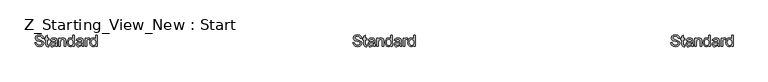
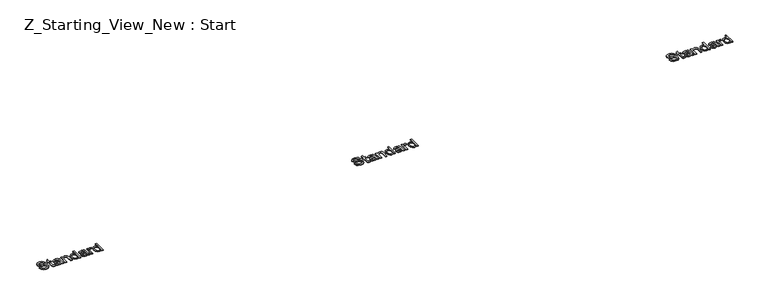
"""IFC4 building model written with IfcOpenShell, lengths in millimetres: pipe fitting geometry, Z_Starting_View_New : Start."""

from ifc_helpers import new_model, si_unit, origin, origin_with_axes, place, context, project, spatial, polyline, outline, extrude, source, transform, mapped, element, save


def z_starting_view_new_start_2e19dfc8(model_context):
    return source(origin(), model_context, "Body", "SweptSolid", [
        extrude(outline(polyline([(25158.6619591, 7155.3175869), (25171.2189979, 7155.3175869), (25175.2656999, 7142.7482854), (25185.1494628, 7134.8020343), (25200.2080991, 7131.7731392), (25213.3292236, 7134.0662703), (25221.8027722, 7140.3693151), (25224.5864127, 7148.7938128), (25222.501748, 7156.6296993), (25213.9668857, 7162.3318703), (25195.6831506, 7167.1265989), (25176.0014638, 7173.3192792), (25165.3206232, 7182.6634819), (25161.8012188, 7195.1469442), (25166.1544891, 7209.359452), (25178.8709434, 7219.3903677), (25197.4857724, 7222.8116703), (25217.3514001, 7219.2309522), (25230.5951519, 7208.7095271), (25235.5738216, 7192.9887032), (25223.0167828, 7192.9887032), (25220.711389, 7200.4812332), (25215.9043976, 7205.8890985), (25197.9762817, 7210.2546315), (25179.9991149, 7205.9381494), (25174.3582576, 7195.5148262), (25178.3559086, 7186.8082857), (25198.8591985, 7179.7940023), (25221.079271, 7173.4909574), (25233.2316396, 7163.3128889), (25237.1434514, 7149.1126439), (25232.6430284, 7134.0907958), (25219.6935821, 7123.1279123), (25200.6986085, 7119.2161004), (25178.2700695, 7123.4344806), (25164.0820872, 7136.1386722), (25158.6619591, 7155.3175869)])), origin_with_axes(), (0.0, 0.0, 1.0), 5.0),
        extrude(outline(polyline([(25281.0930871, 7131.2581044), (25282.662717, 7120.4178483), (25273.2694634, 7119.2161004), (25262.7480383, 7121.3007651), (25257.4995885, 7126.7699441), (25255.9790096, 7141.01924), (25255.9790096, 7182.0012943), (25246.5612305, 7182.0012943), (25246.5612305, 7194.558333), (25255.9790096, 7194.558333), (25255.9790096, 7212.4864489), (25268.5360484, 7219.8686143), (25268.5360484, 7194.558333), (25281.0930871, 7194.558333), (25281.0930871, 7182.0012943), (25268.5360484, 7182.0012943), (25268.5360484, 7141.387122), (25269.198236, 7134.9123989), (25271.3442143, 7132.6192678), (25275.6239081, 7131.7731392), (25281.0930871, 7131.2581044)])), origin_with_axes(), (0.0, 0.0, 1.0), 5.0),
        extrude(outline(polyline([(25340.7390213, 7130.2035093), (25328.5621272, 7121.6931725), (25315.109909, 7119.2161004), (25304.616075, 7120.7060225), (25296.8752247, 7125.1757887), (25292.1019558, 7131.9632116), (25290.5108662, 7140.4061033), (25292.9143619, 7150.3389172), (25299.2296695, 7157.5494043), (25308.0220492, 7161.6696827), (25318.8868308, 7163.5581436), (25340.6654449, 7167.8746256), (25340.7390213, 7170.6705288), (25337.2809305, 7179.9411551), (25323.3995166, 7183.5709241), (25310.695325, 7181.1551657), (25304.6375348, 7172.5835152), (25292.0804961, 7174.153145), (25297.5128868, 7186.4158782), (25308.4512448, 7193.6018398), (25325.0181974, 7196.1279629), (25340.2362492, 7193.8961454), (25348.8324252, 7188.2920764), (25352.6829234, 7179.7694768), (25353.2960601, 7168.7820679), (25353.2960601, 7153.1593458), (25353.9337222, 7131.3439435), (25356.4353197, 7120.7857303), (25343.878281, 7120.7857303), (25340.7390213, 7130.2035093)]), holes=[polyline([(25340.7390213, 7155.3175869), (25320.4809861, 7151.4670887), (25309.6775182, 7149.431475), (25304.7846876, 7146.120537), (25303.067905, 7141.2890201), (25306.8080386, 7134.495466), (25317.7831848, 7131.7731392), (25330.4873764, 7134.7775088), (25338.6788821, 7142.0493096), (25340.6654449, 7151.7613943), (25340.7390213, 7155.3175869)])]), origin_with_axes(), (0.0, 0.0, 1.0), 5.0),
        extrude(outline(polyline([(25370.5619884, 7120.7857303), (25370.5619884, 7194.558333), (25383.1190271, 7194.558333), (25383.1190271, 7184.2576372), (25392.7207472, 7193.1603815), (25405.829609, 7196.1279629), (25417.6876719, 7193.7367299), (25425.7810758, 7187.4582105), (25429.5457349, 7178.2243724), (25430.2079225, 7166.0842666), (25430.2079225, 7120.7857303), (25417.6508837, 7120.7857303), (25417.6508837, 7164.3920094), (25416.2038812, 7175.5020457), (25411.0903215, 7181.3758949), (25402.4696201, 7183.5709241), (25388.8457235, 7178.6413054), (25384.5507012, 7171.4982633), (25383.1190271, 7159.9283746), (25383.1190271, 7120.7857303), (25370.5619884, 7120.7857303)])), origin_with_axes(), (0.0, 0.0, 1.0), 5.0),
        extrude(outline(polyline([(25492.9931164, 7120.7857303), (25492.9931164, 7132.6315305), (25484.6851146, 7122.5699579), (25473.201065, 7119.2161004), (25457.6519193, 7124.0721428), (25446.6645104, 7137.6224629), (25442.7649613, 7157.5984553), (25446.3579421, 7177.5867103), (25457.1246218, 7191.3454969), (25473.1520141, 7196.1279629), (25484.7280342, 7192.7066603), (25492.9931164, 7183.8161788), (25492.9931164, 7221.2420404), (25505.5501551, 7221.2420404), (25505.5501551, 7120.7857303), (25492.9931164, 7120.7857303)]), holes=[polyline([(25455.322, 7157.6475062), (25456.7383457, 7146.2891496), (25460.9873828, 7138.2110741), (25467.1616689, 7133.3826229), (25474.3537619, 7131.7731392), (25481.5427893, 7133.3090465), (25487.5607256, 7137.9167685), (25491.6350187, 7145.6821443), (25492.9931164, 7156.691013), (25491.6104932, 7168.7268856), (25487.4626237, 7177.0716755), (25481.2914032, 7181.946112), (25473.8387271, 7183.5709241), (25466.5730577, 7182.0104913), (25460.6195008, 7177.3291929), (25456.6463752, 7169.2879056), (25455.322, 7157.6475062)])]), origin_with_axes(), (0.0, 0.0, 1.0), 5.0),
        extrude(outline(polyline([(25571.4746087, 7130.2035093), (25559.2977146, 7121.6931725), (25545.8454963, 7119.2161004), (25535.3516624, 7120.7060225), (25527.6108121, 7125.1757887), (25522.8375432, 7131.9632116), (25521.2464536, 7140.4061033), (25523.6499493, 7150.3389172), (25529.9652569, 7157.5494043), (25538.7576366, 7161.6696827), (25549.6224181, 7163.5581436), (25571.4010323, 7167.8746256), (25571.4746087, 7170.6705288), (25568.0165179, 7179.9411551), (25554.135104, 7183.5709241), (25541.4309124, 7181.1551657), (25535.3731222, 7172.5835152), (25522.8160834, 7174.153145), (25528.2484742, 7186.4158782), (25539.1868322, 7193.6018398), (25555.7537847, 7196.1279629), (25570.9718366, 7193.8961454), (25579.5680126, 7188.2920764), (25583.4185108, 7179.7694768), (25584.0316474, 7168.7820679), (25584.0316474, 7153.1593458), (25584.6693096, 7131.3439435), (25587.1709071, 7120.7857303), (25574.6138683, 7120.7857303), (25571.4746087, 7130.2035093)]), holes=[polyline([(25571.4746087, 7155.3175869), (25551.2165735, 7151.4670887), (25540.4131055, 7149.431475), (25535.520275, 7146.120537), (25533.8034924, 7141.2890201), (25537.543626, 7134.495466), (25548.5187722, 7131.7731392), (25561.2229637, 7134.7775088), (25569.4144695, 7142.0493096), (25571.4010323, 7151.7613943), (25571.4746087, 7155.3175869)])]), origin_with_axes(), (0.0, 0.0, 1.0), 5.0),
        extrude(outline(polyline([(25601.2975757, 7120.7857303), (25601.2975757, 7194.558333), (25612.2849847, 7194.558333), (25612.2849847, 7183.6445005), (25620.084083, 7193.6999417), (25627.9322322, 7196.1279629), (25640.5383219, 7192.2529392), (25636.3444671, 7180.9957501), (25627.5152993, 7183.5709241), (25620.4151767, 7181.093852), (25615.8902282, 7174.2267214), (25613.8546145, 7159.5604926), (25613.8546145, 7120.7857303), (25601.2975757, 7120.7857303)])), origin_with_axes(), (0.0, 0.0, 1.0), 5.0),
        extrude(outline(polyline([(25693.9057367, 7120.7857303), (25693.9057367, 7132.6315305), (25685.5977349, 7122.5699579), (25674.1136853, 7119.2161004), (25658.5645396, 7124.0721428), (25647.5771307, 7137.6224629), (25643.6775816, 7157.5984553), (25647.2705624, 7177.5867103), (25658.0372421, 7191.3454969), (25674.0646344, 7196.1279629), (25685.6406545, 7192.7066603), (25693.9057367, 7183.8161788), (25693.9057367, 7221.2420404), (25706.4627754, 7221.2420404), (25706.4627754, 7120.7857303), (25693.9057367, 7120.7857303)]), holes=[polyline([(25656.2346203, 7157.6475062), (25657.650966, 7146.2891496), (25661.9000031, 7138.2110741), (25668.0742892, 7133.3826229), (25675.2663822, 7131.7731392), (25682.4554096, 7133.3090465), (25688.4733459, 7137.9167685), (25692.547639, 7145.6821443), (25693.9057367, 7156.691013), (25692.5231135, 7168.7268856), (25688.375244, 7177.0716755), (25682.2040235, 7181.946112), (25674.7513474, 7183.5709241), (25667.485678, 7182.0104913), (25661.5321211, 7177.3291929), (25657.5589955, 7169.2879056), (25656.2346203, 7157.6475062)])]), origin_with_axes(), (0.0, 0.0, 1.0), 5.0),
        extrude(outline(polyline([(27958.6619591, 7155.3175869), (27971.2189979, 7155.3175869), (27975.2656999, 7142.7482854), (27985.1494628, 7134.8020343), (28000.2080991, 7131.7731392), (28013.3292236, 7134.0662703), (28021.8027722, 7140.3693151), (28024.5864127, 7148.7938128), (28022.501748, 7156.6296993), (28013.9668857, 7162.3318703), (27995.6831506, 7167.1265989), (27976.0014638, 7173.3192792), (27965.3206232, 7182.6634819), (27961.8012188, 7195.1469442), (27966.1544891, 7209.359452), (27978.8709434, 7219.3903677), (27997.4857724, 7222.8116703), (28017.3514001, 7219.2309522), (28030.5951519, 7208.7095271), (28035.5738216, 7192.9887032), (28023.0167828, 7192.9887032), (28020.711389, 7200.4812332), (28015.9043976, 7205.8890985), (27997.9762817, 7210.2546315), (27979.9991149, 7205.9381494), (27974.3582576, 7195.5148262), (27978.3559086, 7186.8082857), (27998.8591985, 7179.7940023), (28021.079271, 7173.4909574), (28033.2316396, 7163.3128889), (28037.1434514, 7149.1126439), (28032.6430284, 7134.0907958), (28019.6935821, 7123.1279123), (28000.6986085, 7119.2161004), (27978.2700695, 7123.4344806), (27964.0820872, 7136.1386722), (27958.6619591, 7155.3175869)])), origin_with_axes(), (0.0, 0.0, 1.0), 5.0),
        extrude(outline(polyline([(28081.0930871, 7131.2581044), (28082.662717, 7120.4178483), (28073.2694634, 7119.2161004), (28062.7480383, 7121.3007651), (28057.4995885, 7126.7699441), (28055.9790096, 7141.01924), (28055.9790096, 7182.0012943), (28046.5612305, 7182.0012943), (28046.5612305, 7194.558333), (28055.9790096, 7194.558333), (28055.9790096, 7212.4864489), (28068.5360484, 7219.8686143), (28068.5360484, 7194.558333), (28081.0930871, 7194.558333), (28081.0930871, 7182.0012943), (28068.5360484, 7182.0012943), (28068.5360484, 7141.387122), (28069.198236, 7134.9123989), (28071.3442143, 7132.6192678), (28075.6239081, 7131.7731392), (28081.0930871, 7131.2581044)])), origin_with_axes(), (0.0, 0.0, 1.0), 5.0),
        extrude(outline(polyline([(28140.7390213, 7130.2035093), (28128.5621272, 7121.6931725), (28115.109909, 7119.2161004), (28104.616075, 7120.7060225), (28096.8752247, 7125.1757887), (28092.1019558, 7131.9632116), (28090.5108662, 7140.4061033), (28092.9143619, 7150.3389172), (28099.2296695, 7157.5494043), (28108.0220492, 7161.6696827), (28118.8868308, 7163.5581436), (28140.6654449, 7167.8746256), (28140.7390213, 7170.6705288), (28137.2809305, 7179.9411551), (28123.3995166, 7183.5709241), (28110.695325, 7181.1551657), (28104.6375348, 7172.5835152), (28092.0804961, 7174.153145), (28097.5128868, 7186.4158782), (28108.4512448, 7193.6018398), (28125.0181974, 7196.1279629), (28140.2362492, 7193.8961454), (28148.8324252, 7188.2920764), (28152.6829234, 7179.7694768), (28153.2960601, 7168.7820679), (28153.2960601, 7153.1593458), (28153.9337222, 7131.3439435), (28156.4353197, 7120.7857303), (28143.878281, 7120.7857303), (28140.7390213, 7130.2035093)]), holes=[polyline([(28140.7390213, 7155.3175869), (28120.4809861, 7151.4670887), (28109.6775182, 7149.431475), (28104.7846876, 7146.120537), (28103.067905, 7141.2890201), (28106.8080386, 7134.495466), (28117.7831848, 7131.7731392), (28130.4873764, 7134.7775088), (28138.6788821, 7142.0493096), (28140.6654449, 7151.7613943), (28140.7390213, 7155.3175869)])]), origin_with_axes(), (0.0, 0.0, 1.0), 5.0),
        extrude(outline(polyline([(28170.5619884, 7120.7857303), (28170.5619884, 7194.558333), (28183.1190271, 7194.558333), (28183.1190271, 7184.2576372), (28192.7207472, 7193.1603815), (28205.829609, 7196.1279629), (28217.6876719, 7193.7367299), (28225.7810758, 7187.4582105), (28229.5457349, 7178.2243724), (28230.2079225, 7166.0842666), (28230.2079225, 7120.7857303), (28217.6508837, 7120.7857303), (28217.6508837, 7164.3920094), (28216.2038812, 7175.5020457), (28211.0903215, 7181.3758949), (28202.4696201, 7183.5709241), (28188.8457235, 7178.6413054), (28184.5507012, 7171.4982633), (28183.1190271, 7159.9283746), (28183.1190271, 7120.7857303), (28170.5619884, 7120.7857303)])), origin_with_axes(), (0.0, 0.0, 1.0), 5.0),
        extrude(outline(polyline([(28292.9931164, 7120.7857303), (28292.9931164, 7132.6315305), (28284.6851146, 7122.5699579), (28273.201065, 7119.2161004), (28257.6519193, 7124.0721428), (28246.6645104, 7137.6224629), (28242.7649613, 7157.5984552), (28246.3579421, 7177.5867103), (28257.1246218, 7191.3454969), (28273.1520141, 7196.1279629), (28284.7280342, 7192.7066603), (28292.9931164, 7183.8161788), (28292.9931164, 7221.2420404), (28305.5501551, 7221.2420404), (28305.5501551, 7120.7857303), (28292.9931164, 7120.7857303)]), holes=[polyline([(28255.322, 7157.6475062), (28256.7383457, 7146.2891496), (28260.9873828, 7138.2110741), (28267.1616689, 7133.3826229), (28274.3537619, 7131.7731392), (28281.5427893, 7133.3090465), (28287.5607256, 7137.9167685), (28291.6350187, 7145.6821443), (28292.9931164, 7156.691013), (28291.6104932, 7168.7268856), (28287.4626237, 7177.0716755), (28281.2914032, 7181.946112), (28273.8387271, 7183.5709241), (28266.5730577, 7182.0104913), (28260.6195008, 7177.3291929), (28256.6463752, 7169.2879056), (28255.322, 7157.6475062)])]), origin_with_axes(), (0.0, 0.0, 1.0), 5.0),
        extrude(outline(polyline([(28371.4746087, 7130.2035093), (28359.2977146, 7121.6931725), (28345.8454963, 7119.2161004), (28335.3516624, 7120.7060225), (28327.6108121, 7125.1757887), (28322.8375432, 7131.9632116), (28321.2464536, 7140.4061033), (28323.6499493, 7150.3389172), (28329.9652569, 7157.5494043), (28338.7576366, 7161.6696827), (28349.6224181, 7163.5581436), (28371.4010323, 7167.8746256), (28371.4746087, 7170.6705288), (28368.0165179, 7179.9411551), (28354.135104, 7183.5709241), (28341.4309124, 7181.1551657), (28335.3731222, 7172.5835152), (28322.8160834, 7174.153145), (28328.2484742, 7186.4158782), (28339.1868322, 7193.6018398), (28355.7537847, 7196.1279629), (28370.9718366, 7193.8961454), (28379.5680126, 7188.2920764), (28383.4185108, 7179.7694768), (28384.0316474, 7168.7820679), (28384.0316474, 7153.1593458), (28384.6693096, 7131.3439435), (28387.1709071, 7120.7857303), (28374.6138683, 7120.7857303), (28371.4746087, 7130.2035093)]), holes=[polyline([(28371.4746087, 7155.3175869), (28351.2165735, 7151.4670887), (28340.4131055, 7149.431475), (28335.520275, 7146.120537), (28333.8034924, 7141.2890201), (28337.543626, 7134.495466), (28348.5187722, 7131.7731392), (28361.2229637, 7134.7775088), (28369.4144695, 7142.0493096), (28371.4010323, 7151.7613943), (28371.4746087, 7155.3175869)])]), origin_with_axes(), (0.0, 0.0, 1.0), 5.0),
        extrude(outline(polyline([(28401.2975757, 7120.7857303), (28401.2975757, 7194.558333), (28412.2849847, 7194.558333), (28412.2849847, 7183.6445005), (28420.084083, 7193.6999417), (28427.9322322, 7196.1279629), (28440.5383219, 7192.2529392), (28436.3444671, 7180.9957501), (28427.5152993, 7183.5709241), (28420.4151767, 7181.093852), (28415.8902282, 7174.2267214), (28413.8546145, 7159.5604926), (28413.8546145, 7120.7857303), (28401.2975757, 7120.7857303)])), origin_with_axes(), (0.0, 0.0, 1.0), 5.0),
        extrude(outline(polyline([(28493.9057367, 7120.7857303), (28493.9057367, 7132.6315305), (28485.5977349, 7122.5699579), (28474.1136853, 7119.2161004), (28458.5645396, 7124.0721428), (28447.5771307, 7137.6224629), (28443.6775816, 7157.5984552), (28447.2705624, 7177.5867103), (28458.0372421, 7191.3454969), (28474.0646344, 7196.1279629), (28485.6406545, 7192.7066603), (28493.9057367, 7183.8161788), (28493.9057367, 7221.2420404), (28506.4627754, 7221.2420404), (28506.4627754, 7120.7857303), (28493.9057367, 7120.7857303)]), holes=[polyline([(28456.2346203, 7157.6475062), (28457.650966, 7146.2891496), (28461.9000031, 7138.2110741), (28468.0742892, 7133.3826229), (28475.2663822, 7131.7731392), (28482.4554096, 7133.3090465), (28488.4733459, 7137.9167685), (28492.547639, 7145.6821443), (28493.9057367, 7156.691013), (28492.5231135, 7168.7268856), (28488.375244, 7177.0716755), (28482.2040235, 7181.946112), (28474.7513474, 7183.5709241), (28467.485678, 7182.0104913), (28461.5321211, 7177.3291929), (28457.5589955, 7169.2879056), (28456.2346203, 7157.6475062)])]), origin_with_axes(), (0.0, 0.0, 1.0), 5.0),
        extrude(outline(polyline([(22570.5619884, 7120.7857303), (22570.5619884, 7194.558333), (22583.1190271, 7194.558333), (22583.1190271, 7184.2576372), (22592.7207472, 7193.1603815), (22605.829609, 7196.1279629), (22617.6876719, 7193.7367299), (22625.7810758, 7187.4582105), (22629.5457349, 7178.2243724), (22630.2079225, 7166.0842666), (22630.2079225, 7120.7857303), (22617.6508837, 7120.7857303), (22617.6508837, 7164.3920094), (22616.2038812, 7175.5020457), (22611.0903215, 7181.3758949), (22602.4696201, 7183.5709241), (22588.8457235, 7178.6413054), (22584.5507012, 7171.4982633), (22583.1190271, 7159.9283746), (22583.1190271, 7120.7857303), (22570.5619884, 7120.7857303)])), origin_with_axes(), (0.0, 0.0, 1.0), 5.0),
        extrude(outline(polyline([(22358.6619591, 7155.3175869), (22371.2189979, 7155.3175869), (22375.2656999, 7142.7482854), (22385.1494628, 7134.8020343), (22400.2080991, 7131.7731392), (22413.3292236, 7134.0662703), (22421.8027722, 7140.3693151), (22424.5864127, 7148.7938128), (22422.501748, 7156.6296993), (22413.9668857, 7162.3318703), (22395.6831506, 7167.1265989), (22376.0014638, 7173.3192792), (22365.3206232, 7182.6634819), (22361.8012188, 7195.1469442), (22366.1544891, 7209.359452), (22378.8709434, 7219.3903677), (22397.4857724, 7222.8116703), (22417.3514001, 7219.2309522), (22430.5951519, 7208.7095271), (22435.5738216, 7192.9887032), (22423.0167828, 7192.9887032), (22420.711389, 7200.4812332), (22415.9043976, 7205.8890985), (22397.9762817, 7210.2546315), (22379.9991149, 7205.9381494), (22374.3582576, 7195.5148262), (22378.3559086, 7186.8082857), (22398.8591985, 7179.7940023), (22421.079271, 7173.4909574), (22433.2316396, 7163.3128889), (22437.1434514, 7149.1126439), (22432.6430284, 7134.0907958), (22419.6935821, 7123.1279123), (22400.6986085, 7119.2161004), (22378.2700695, 7123.4344806), (22364.0820872, 7136.1386722), (22358.6619591, 7155.3175869)])), origin_with_axes(), (0.0, 0.0, 1.0), 5.0),
        extrude(outline(polyline([(22481.0930871, 7131.2581044), (22482.662717, 7120.4178483), (22473.2694634, 7119.2161004), (22462.7480383, 7121.3007651), (22457.4995885, 7126.7699441), (22455.9790096, 7141.01924), (22455.9790096, 7182.0012943), (22446.5612305, 7182.0012943), (22446.5612305, 7194.558333), (22455.9790096, 7194.558333), (22455.9790096, 7212.4864489), (22468.5360484, 7219.8686143), (22468.5360484, 7194.558333), (22481.0930871, 7194.558333), (22481.0930871, 7182.0012943), (22468.5360484, 7182.0012943), (22468.5360484, 7141.387122), (22469.198236, 7134.9123989), (22471.3442143, 7132.6192678), (22475.6239081, 7131.7731392), (22481.0930871, 7131.2581044)])), origin_with_axes(), (0.0, 0.0, 1.0), 5.0),
        extrude(outline(polyline([(22540.7390213, 7130.2035093), (22528.5621272, 7121.6931725), (22515.109909, 7119.2161004), (22504.616075, 7120.7060225), (22496.8752247, 7125.1757887), (22492.1019558, 7131.9632116), (22490.5108662, 7140.4061033), (22492.9143619, 7150.3389172), (22499.2296695, 7157.5494043), (22508.0220492, 7161.6696827), (22518.8868308, 7163.5581436), (22540.6654449, 7167.8746256), (22540.7390213, 7170.6705288), (22537.2809305, 7179.9411551), (22523.3995166, 7183.5709241), (22510.695325, 7181.1551657), (22504.6375348, 7172.5835152), (22492.0804961, 7174.153145), (22497.5128868, 7186.4158782), (22508.4512448, 7193.6018398), (22525.0181974, 7196.1279629), (22540.2362492, 7193.8961454), (22548.8324252, 7188.2920764), (22552.6829234, 7179.7694768), (22553.2960601, 7168.7820679), (22553.2960601, 7153.1593458), (22553.9337222, 7131.3439435), (22556.4353197, 7120.7857303), (22543.878281, 7120.7857303), (22540.7390213, 7130.2035093)]), holes=[polyline([(22540.7390213, 7155.3175869), (22520.4809861, 7151.4670887), (22509.6775182, 7149.431475), (22504.7846876, 7146.120537), (22503.067905, 7141.2890201), (22506.8080386, 7134.495466), (22517.7831848, 7131.7731392), (22530.4873764, 7134.7775088), (22538.6788821, 7142.0493096), (22540.6654449, 7151.7613943), (22540.7390213, 7155.3175869)])]), origin_with_axes(), (0.0, 0.0, 1.0), 5.0),
        extrude(outline(polyline([(22692.9931164, 7120.7857303), (22692.9931164, 7132.6315305), (22684.6851146, 7122.5699579), (22673.201065, 7119.2161004), (22657.6519193, 7124.0721428), (22646.6645104, 7137.6224629), (22642.7649613, 7157.5984553), (22646.3579421, 7177.5867103), (22657.1246218, 7191.3454969), (22673.1520141, 7196.1279629), (22684.7280342, 7192.7066603), (22692.9931164, 7183.8161788), (22692.9931164, 7221.2420404), (22705.5501551, 7221.2420404), (22705.5501551, 7120.7857303), (22692.9931164, 7120.7857303)]), holes=[polyline([(22655.322, 7157.6475062), (22656.7383457, 7146.2891496), (22660.9873828, 7138.2110741), (22667.1616689, 7133.3826229), (22674.3537619, 7131.7731392), (22681.5427893, 7133.3090465), (22687.5607256, 7137.9167685), (22691.6350187, 7145.6821443), (22692.9931164, 7156.691013), (22691.6104932, 7168.7268856), (22687.4626237, 7177.0716755), (22681.2914032, 7181.946112), (22673.8387271, 7183.5709241), (22666.5730577, 7182.0104913), (22660.6195008, 7177.3291929), (22656.6463752, 7169.2879056), (22655.322, 7157.6475062)])]), origin_with_axes(), (0.0, 0.0, 1.0), 5.0),
        extrude(outline(polyline([(22771.4746087, 7130.2035093), (22759.2977146, 7121.6931725), (22745.8454963, 7119.2161004), (22735.3516624, 7120.7060225), (22727.6108121, 7125.1757887), (22722.8375432, 7131.9632116), (22721.2464536, 7140.4061033), (22723.6499493, 7150.3389172), (22729.9652569, 7157.5494043), (22738.7576366, 7161.6696827), (22749.6224181, 7163.5581436), (22771.4010323, 7167.8746256), (22771.4746087, 7170.6705288), (22768.0165179, 7179.9411551), (22754.135104, 7183.5709241), (22741.4309124, 7181.1551657), (22735.3731222, 7172.5835152), (22722.8160834, 7174.153145), (22728.2484742, 7186.4158782), (22739.1868322, 7193.6018398), (22755.7537847, 7196.1279629), (22770.9718366, 7193.8961454), (22779.5680126, 7188.2920764), (22783.4185108, 7179.7694768), (22784.0316474, 7168.7820679), (22784.0316474, 7153.1593458), (22784.6693096, 7131.3439435), (22787.1709071, 7120.7857303), (22774.6138683, 7120.7857303), (22771.4746087, 7130.2035093)]), holes=[polyline([(22771.4746087, 7155.3175869), (22751.2165735, 7151.4670887), (22740.4131055, 7149.431475), (22735.520275, 7146.120537), (22733.8034924, 7141.2890201), (22737.543626, 7134.495466), (22748.5187722, 7131.7731392), (22761.2229637, 7134.7775088), (22769.4144695, 7142.0493096), (22771.4010323, 7151.7613943), (22771.4746087, 7155.3175869)])]), origin_with_axes(), (0.0, 0.0, 1.0), 5.0),
        extrude(outline(polyline([(22801.2975757, 7120.7857303), (22801.2975757, 7194.558333), (22812.2849847, 7194.558333), (22812.2849847, 7183.6445005), (22820.084083, 7193.6999417), (22827.9322322, 7196.1279629), (22840.5383219, 7192.2529392), (22836.3444671, 7180.9957501), (22827.5152993, 7183.5709241), (22820.4151767, 7181.093852), (22815.8902282, 7174.2267214), (22813.8546145, 7159.5604926), (22813.8546145, 7120.7857303), (22801.2975757, 7120.7857303)])), origin_with_axes(), (0.0, 0.0, 1.0), 5.0),
        extrude(outline(polyline([(22893.9057367, 7120.7857303), (22893.9057367, 7132.6315305), (22885.5977349, 7122.5699579), (22874.1136853, 7119.2161004), (22858.5645396, 7124.0721428), (22847.5771307, 7137.6224629), (22843.6775816, 7157.5984553), (22847.2705624, 7177.5867103), (22858.0372421, 7191.3454969), (22874.0646344, 7196.1279629), (22885.6406545, 7192.7066603), (22893.9057367, 7183.8161788), (22893.9057367, 7221.2420404), (22906.4627754, 7221.2420404), (22906.4627754, 7120.7857303), (22893.9057367, 7120.7857303)]), holes=[polyline([(22856.2346203, 7157.6475062), (22857.650966, 7146.2891496), (22861.9000031, 7138.2110741), (22868.0742892, 7133.3826229), (22875.2663822, 7131.7731392), (22882.4554096, 7133.3090465), (22888.4733459, 7137.9167685), (22892.547639, 7145.6821443), (22893.9057367, 7156.691013), (22892.5231135, 7168.7268856), (22888.375244, 7177.0716755), (22882.2040235, 7181.946112), (22874.7513474, 7183.5709241), (22867.485678, 7182.0104913), (22861.5321211, 7177.3291929), (22857.5589955, 7169.2879056), (22856.2346203, 7157.6475062)])]), origin_with_axes(), (0.0, 0.0, 1.0), 5.0),
    ])


if __name__ == "__main__":
    model = new_model("IFC4")
    model_context = context("Model", 3, world=origin())
    ifc_project = project(units=[si_unit("LENGTHUNIT", "METRE", prefix="MILLI")], contexts=[model_context])
    site = spatial("IfcSite", under=ifc_project)
    building = spatial("IfcBuilding", under=site)
    placement = place(None, origin())
    z_starting_view_new_start_shape = z_starting_view_new_start_2e19dfc8(model_context)
    element("IfcPipeFitting", 1, ObjectType="Z_Starting_View_New : Start", at=placement, inside=building, context=model_context, shape_type="MappedRepresentation", body=[
        mapped(z_starting_view_new_start_shape, transform((0.0, 0.0, 0.0), x_axis=(1.0, 0.0, 0.0), y_axis=(0.0, 1.0, 0.0), z_axis=(0.0, 0.0, 1.0))),
    ])
    save(model, "model.ifc")
